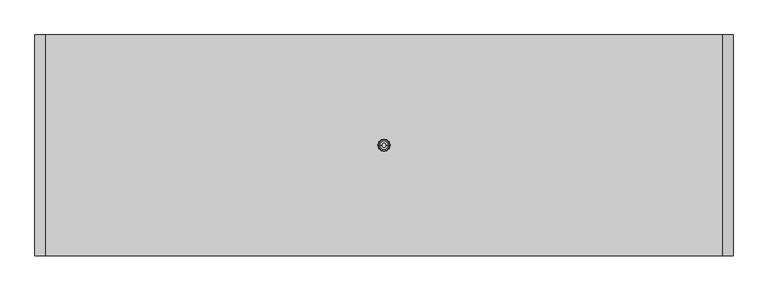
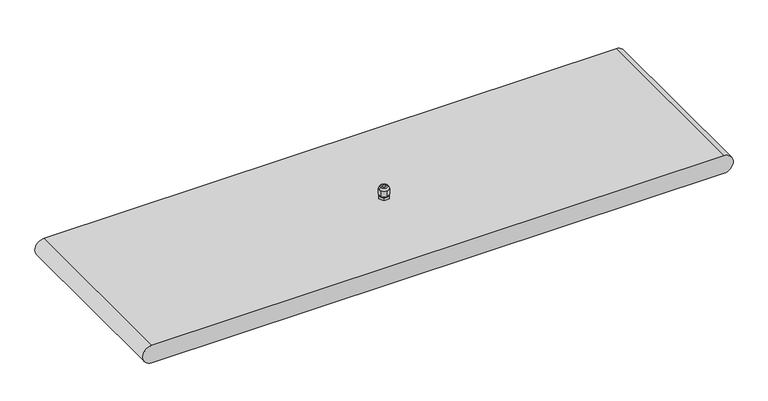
"""IFC4 building model written with IfcOpenShell, lengths in millimetres: light fixture geometry, GENILED_Светильник светодиодный_Element Низковольтный : Element 1,0x3 300Вт 12В Опал."""

from ifc_helpers import new_model, si_unit, point, frame, origin, origin_with_axes, place, context, project, spatial, polyline, circle_curve, ellipse_curve, trimmed, outline, extrude, source, transform, mapped, element, save
from ifc_brep_helpers import plane_surface, cylinder_surface, revolved_surface, advanced_brep


def light_fixture_24b21b9c(model_context):
    return source(origin(), model_context, "Body", "SolidModel", [
        advanced_brep(
        [(5.85, 0.0, 52.0120269), (-5.85, 0.0, 52.0120269), (-3.5, 0.0, 52.0120269), (3.5, 0.0, 52.0120269), (8.0, 0.0, 48.0120269), (4.0, 6.9282032, 48.0120269), (-4.0, 6.9282032, 48.0120269), (-8.0, 0.0, 48.0120269), (-4.0, -6.9282032, 48.0120269), (4.0, -6.9282032, 48.0120269), (-3.5, 0.0, 48.0120269), (3.5, 0.0, 48.0120269), (8.0, 4.1231056, 48.0120269), (7.5707142, 4.8666504, 48.0120269), (0.4292858, 8.989756, 48.0120269), (-0.4292858, 8.989756, 48.0120269), (-7.5707142, 4.8666504, 48.0120269), (-8.0, 4.1231056, 48.0120269), (-8.0, -4.1231056, 48.0120269), (-7.5707142, -4.8666504, 48.0120269), (-0.4292858, -8.989756, 48.0120269), (0.4292858, -8.989756, 48.0120269), (7.5707142, -4.8666504, 48.0120269), (8.0, -4.1231056, 48.0120269), (0.4292858, 8.989756, 38.6), (7.5707142, 4.8666504, 38.6), (8.0, 4.1231056, 38.6), (8.0, -4.1231056, 38.6), (7.5707142, -4.8666504, 38.6), (0.4292858, -8.989756, 38.6), (-0.4292858, -8.989756, 38.6), (-7.5707142, -4.8666504, 38.6), (-8.0, -4.1231056, 38.6), (-8.0, 4.1231056, 38.6), (-7.5707142, 4.8666504, 38.6), (-0.4292858, 8.989756, 38.6), (-7.25, 0.0, 38.6), (7.25, 0.0, 38.6), (-7.25, 0.0, 36.6), (7.25, 0.0, 36.6), (-8.989756, -0.4292858, 36.6), (-4.8666504, -7.5707142, 36.6), (-4.1231056, -8.0, 36.6), (4.1231056, -8.0, 36.6), (4.8666504, -7.5707142, 36.6), (8.989756, -0.4292858, 36.6), (9.0, 0.0, 36.6), (8.989756, 0.4292858, 36.6), (4.8666504, 7.5707142, 36.6), (4.1231056, 8.0, 36.6), (-4.1231056, 8.0, 36.6), (-4.8666504, 7.5707142, 36.6), (-8.989756, 0.4292858, 36.6), (-9.0, 0.0, 36.6), (-8.989756, 0.4292858, 32.0), (-4.8666504, 7.5707142, 32.0), (-4.1231056, 8.0, 32.0), (4.1231056, 8.0, 32.0), (4.8666504, 7.5707142, 32.0), (8.989756, 0.4292858, 32.0), (9.0, 0.0, 32.0), (8.989756, -0.4292858, 32.0), (4.8666504, -7.5707142, 32.0), (4.1231056, -8.0, 32.0), (-4.1231056, -8.0, 32.0), (-4.8666504, -7.5707142, 32.0), (-8.989756, -0.4292858, 32.0), (-9.0, 0.0, 32.0)],
        [
            (0, 1, circle_curve(frame((0.0, 0.0, 52.0120269), z_axis=(0.0, 0.0, 1.0), x_axis=(-1.0, 0.0, 0.0)), 5.85)),
            (1, 2),
            (2, 3, circle_curve(frame((0.0, 0.0, 52.0120269), z_axis=(0.0, 0.0, -1.0), x_axis=(-1.0, 0.0, 0.0)), 3.5)),
            (3, 0),
            (1, 0, circle_curve(frame((0.0, 0.0, 52.0120269), z_axis=(0.0, 0.0, 1.0), x_axis=(-1.0, 0.0, 0.0)), 5.85)),
            (3, 2, circle_curve(frame((0.0, 0.0, 52.0120269), z_axis=(0.0, 0.0, -1.0), x_axis=(-1.0, 0.0, 0.0)), 3.5)),
            (0, 4, circle_curve(frame((2.4876149, 0.0, 47.6269324), z_axis=(0.0, 1.0, 0.0), x_axis=(-1.0, 0.0, 0.0)), 5.5258201)),
            (4, 5, circle_curve(frame((0.0, 0.0, 48.0120269), z_axis=(0.0, 0.0, 1.0), x_axis=(-1.0, 0.0, 0.0)), 8.0)),
            (5, 6, circle_curve(frame((0.0, 0.0, 48.0120269), z_axis=(0.0, 0.0, 1.0), x_axis=(-1.0, 0.0, 0.0)), 8.0)),
            (6, 7, circle_curve(frame((0.0, 0.0, 48.0120269), z_axis=(0.0, 0.0, 1.0), x_axis=(-1.0, 0.0, 0.0)), 8.0)),
            (7, 1, circle_curve(frame((-2.4876149, 0.0, 47.6269324), z_axis=(0.0, 1.0, 0.0), x_axis=(1.0, 0.0, 0.0)), 5.5258201)),
            (7, 8, circle_curve(frame((0.0, 0.0, 48.0120269), z_axis=(0.0, 0.0, 1.0), x_axis=(-1.0, 0.0, 0.0)), 8.0)),
            (8, 9, circle_curve(frame((0.0, 0.0, 48.0120269), z_axis=(0.0, 0.0, 1.0), x_axis=(-1.0, 0.0, 0.0)), 8.0)),
            (9, 4, circle_curve(frame((0.0, 0.0, 48.0120269), z_axis=(0.0, 0.0, 1.0), x_axis=(-1.0, 0.0, 0.0)), 8.0)),
            (2, 10),
            (10, 11, circle_curve(frame((0.0, 0.0, 48.0120269), z_axis=(0.0, 0.0, -1.0), x_axis=(-1.0, 0.0, 0.0)), 3.5)),
            (11, 3),
            (11, 10, circle_curve(frame((0.0, 0.0, 48.0120269), z_axis=(0.0, 0.0, -1.0), x_axis=(-1.0, 0.0, 0.0)), 3.5)),
            (4, 12),
            (12, 13, circle_curve(frame((0.0, 0.0, 48.0120269), z_axis=(0.0, 0.0, 1.0), x_axis=(1.0, 0.0, 0.0)), 9.0)),
            (13, 5),
            (5, 14),
            (14, 15, circle_curve(frame((0.0, 0.0, 48.0120269), z_axis=(0.0, 0.0, 1.0), x_axis=(1.0, 0.0, 0.0)), 9.0)),
            (15, 6),
            (6, 16),
            (16, 17, circle_curve(frame((0.0, 0.0, 48.0120269), z_axis=(0.0, 0.0, 1.0), x_axis=(1.0, 0.0, 0.0)), 9.0)),
            (17, 7),
            (7, 18),
            (18, 19, circle_curve(frame((0.0, 0.0, 48.0120269), z_axis=(0.0, 0.0, 1.0), x_axis=(1.0, 0.0, 0.0)), 9.0)),
            (19, 8),
            (8, 20),
            (20, 21, circle_curve(frame((0.0, 0.0, 48.0120269), z_axis=(0.0, 0.0, 1.0), x_axis=(1.0, 0.0, 0.0)), 9.0)),
            (21, 9),
            (9, 22),
            (22, 23, circle_curve(frame((0.0, 0.0, 48.0120269), z_axis=(0.0, 0.0, 1.0), x_axis=(1.0, 0.0, 0.0)), 9.0)),
            (23, 4),
            (24, 25),
            (25, 26, circle_curve(frame((0.0, 0.0, 38.6), z_axis=(0.0, 0.0, -1.0), x_axis=(1.0, 0.0, 0.0)), 9.0)),
            (26, 27),
            (27, 28, circle_curve(frame((0.0, 0.0, 38.6), z_axis=(0.0, 0.0, -1.0), x_axis=(1.0, 0.0, 0.0)), 9.0)),
            (28, 29),
            (29, 30, circle_curve(frame((0.0, 0.0, 38.6), z_axis=(0.0, 0.0, -1.0), x_axis=(1.0, 0.0, 0.0)), 9.0)),
            (30, 31),
            (31, 32, circle_curve(frame((0.0, 0.0, 38.6), z_axis=(0.0, 0.0, -1.0), x_axis=(1.0, 0.0, 0.0)), 9.0)),
            (32, 33),
            (33, 34, circle_curve(frame((0.0, 0.0, 38.6), z_axis=(0.0, 0.0, -1.0), x_axis=(1.0, 0.0, 0.0)), 9.0)),
            (34, 35),
            (35, 24, circle_curve(frame((0.0, 0.0, 38.6), z_axis=(0.0, 0.0, -1.0), x_axis=(1.0, 0.0, 0.0)), 9.0)),
            (36, 37, circle_curve(frame((0.0, 0.0, 38.6), z_axis=(0.0, 0.0, 1.0), x_axis=(1.0, 0.0, 0.0)), 7.25)),
            (37, 36, circle_curve(frame((0.0, 0.0, 38.6), z_axis=(0.0, 0.0, 1.0), x_axis=(1.0, 0.0, 0.0)), 7.25)),
            (15, 35),
            (34, 16),
            (17, 33),
            (32, 18),
            (19, 31),
            (30, 20),
            (21, 29),
            (28, 22),
            (23, 27),
            (26, 12),
            (13, 25),
            (24, 14),
            (36, 38),
            (38, 39, circle_curve(frame((0.0, 0.0, 36.6), z_axis=(0.0, 0.0, 1.0), x_axis=(1.0, 0.0, 0.0)), 7.25)),
            (39, 37),
            (39, 38, circle_curve(frame((0.0, 0.0, 36.6), z_axis=(0.0, 0.0, 1.0), x_axis=(1.0, 0.0, 0.0)), 7.25)),
            (40, 41),
            (41, 42, circle_curve(frame((0.0, 0.0, 36.6), z_axis=(0.0, 0.0, 1.0), x_axis=(1.0, 0.0, 0.0)), 9.0)),
            (42, 43),
            (43, 44, circle_curve(frame((0.0, 0.0, 36.6), z_axis=(0.0, 0.0, 1.0), x_axis=(1.0, 0.0, 0.0)), 9.0)),
            (44, 45),
            (45, 46, circle_curve(frame((0.0, 0.0, 36.6), z_axis=(0.0, 0.0, 1.0), x_axis=(1.0, 0.0, 0.0)), 9.0)),
            (46, 47, circle_curve(frame((0.0, 0.0, 36.6), z_axis=(0.0, 0.0, 1.0), x_axis=(1.0, 0.0, 0.0)), 9.0)),
            (47, 48),
            (48, 49, circle_curve(frame((0.0, 0.0, 36.6), z_axis=(0.0, 0.0, 1.0), x_axis=(1.0, 0.0, 0.0)), 9.0)),
            (49, 50),
            (50, 51, circle_curve(frame((0.0, 0.0, 36.6), z_axis=(0.0, 0.0, 1.0), x_axis=(1.0, 0.0, 0.0)), 9.0)),
            (51, 52),
            (52, 53, circle_curve(frame((0.0, 0.0, 36.6), z_axis=(0.0, 0.0, 1.0), x_axis=(1.0, 0.0, 0.0)), 9.0)),
            (53, 40, circle_curve(frame((0.0, 0.0, 36.6), z_axis=(0.0, 0.0, 1.0), x_axis=(1.0, 0.0, 0.0)), 9.0)),
            (54, 55),
            (55, 56, circle_curve(frame((0.0, 0.0, 32.0), z_axis=(0.0, 0.0, -1.0), x_axis=(1.0, 0.0, 0.0)), 9.0)),
            (56, 57),
            (57, 58, circle_curve(frame((0.0, 0.0, 32.0), z_axis=(0.0, 0.0, -1.0), x_axis=(1.0, 0.0, 0.0)), 9.0)),
            (58, 59),
            (59, 60, circle_curve(frame((0.0, 0.0, 32.0), z_axis=(0.0, 0.0, -1.0), x_axis=(1.0, 0.0, 0.0)), 9.0)),
            (60, 61, circle_curve(frame((0.0, 0.0, 32.0), z_axis=(0.0, 0.0, -1.0), x_axis=(1.0, 0.0, 0.0)), 9.0)),
            (61, 62),
            (62, 63, circle_curve(frame((0.0, 0.0, 32.0), z_axis=(0.0, 0.0, -1.0), x_axis=(1.0, 0.0, 0.0)), 9.0)),
            (63, 64),
            (64, 65, circle_curve(frame((0.0, 0.0, 32.0), z_axis=(0.0, 0.0, -1.0), x_axis=(1.0, 0.0, 0.0)), 9.0)),
            (65, 66),
            (66, 67, circle_curve(frame((0.0, 0.0, 32.0), z_axis=(0.0, 0.0, -1.0), x_axis=(1.0, 0.0, 0.0)), 9.0)),
            (67, 54, circle_curve(frame((0.0, 0.0, 32.0), z_axis=(0.0, 0.0, -1.0), x_axis=(1.0, 0.0, 0.0)), 9.0)),
            (40, 66),
            (65, 41),
            (42, 64),
            (63, 43),
            (44, 62),
            (61, 45),
            (47, 59),
            (58, 48),
            (49, 57),
            (56, 50),
            (51, 55),
            (54, 52),
            (67, 53),
            (46, 60),
        ],
        [
            plane_surface(frame((0.0, 0.0, 52.0120269), z_axis=(0.0, 0.0, 1.0), x_axis=(-1.0, 0.0, 0.0))),
            revolved_surface(trimmed(ellipse_curve(frame((-2.4876149, 0.0, 47.6269324), z_axis=(0.0, -1.0, 0.0), x_axis=(1.0, 0.0, 0.0)), 5.5258201, 5.5258201), [point((-5.85, 0.0, 52.0120269))], [point((-8.0, 0.0, 48.0120269))], True, "CARTESIAN"), (0.0, 0.0, 48.0120269), (0.0, 0.0, -1.0)),
            revolved_surface(polyline([(-3.5, 0.0, 48.0120269), (-3.5, 0.0, 52.0120269)]), (0.0, 0.0, 48.0120269), (0.0, 0.0, -1.0)),
            plane_surface(frame((0.0, 9.2376043, 48.0120269), z_axis=(0.0, 0.0, 1.0000000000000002), x_axis=(-0.8660254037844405, -0.49999999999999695, 0.0))),
            plane_surface(frame((0.0, 9.2376043, 38.6), z_axis=(0.0, 0.0, -1.0000000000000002), x_axis=(0.8660254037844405, 0.49999999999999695, 0.0))),
            plane_surface(frame((0.0, 9.2376043, 48.0120269), z_axis=(-0.49999999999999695, 0.8660254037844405, 0.0), x_axis=(0.0, 0.0, -1.0))),
            plane_surface(frame((-8.0, 4.6188022, 48.0120269), z_axis=(-1.0, 0.0, 0.0), x_axis=(0.0, 0.0, -1.0))),
            plane_surface(frame((-8.0, -4.6188022, 48.0120269), z_axis=(-0.5000000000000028, -0.8660254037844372, 0.0), x_axis=(0.0, 0.0, -1.0))),
            plane_surface(frame((0.0, -9.2376043, 48.0120269), z_axis=(0.49999999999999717, -0.8660254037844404, 0.0), x_axis=(0.0, 0.0, -1.0))),
            plane_surface(frame((8.0, -4.6188022, 48.0120269), z_axis=(1.0, 0.0, 0.0), x_axis=(0.0, 0.0, -1.0))),
            plane_surface(frame((8.0, 4.6188022, 48.0120269), z_axis=(0.5000000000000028, 0.8660254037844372, 0.0), x_axis=(0.0, 0.0, -1.0))),
            cylinder_surface(frame((0.0, 0.0, 36.6), z_axis=(0.0, 0.0, 1.0), x_axis=(1.0, 0.0, 0.0)), 7.25),
            plane_surface(frame((-9.2376043, 0.0, 36.6), z_axis=(0.0, 0.0, 1.0), x_axis=(0.5000000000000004, -0.8660254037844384, 0.0))),
            plane_surface(frame((-9.2376043, 0.0, 32.0), z_axis=(0.0, 0.0, -1.0), x_axis=(-0.5000000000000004, 0.8660254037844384, 0.0))),
            plane_surface(frame((-9.2376043, 0.0, 36.6), z_axis=(-0.8660254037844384, -0.5000000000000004, 0.0), x_axis=(0.0, 0.0, -1.0))),
            plane_surface(frame((-4.6188022, -8.0, 36.6), z_axis=(0.0, -1.0, 0.0), x_axis=(0.0, 0.0, -1.0))),
            plane_surface(frame((4.6188022, -8.0, 36.6), z_axis=(0.866025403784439, -0.49999999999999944, 0.0), x_axis=(0.0, 0.0, -1.0))),
            plane_surface(frame((9.2376043, 0.0, 36.6), z_axis=(0.8660254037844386, 0.5000000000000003, 0.0), x_axis=(0.0, 0.0, -1.0))),
            plane_surface(frame((4.6188022, 8.0, 36.6), z_axis=(0.0, 1.0, 0.0), x_axis=(0.0, 0.0, -1.0))),
            plane_surface(frame((-4.6188022, 8.0, 36.6), z_axis=(-0.8660254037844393, 0.49999999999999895, 0.0), x_axis=(0.0, 0.0, -1.0))),
            cylinder_surface(frame((0.0, 0.0, 32.0), z_axis=(0.0, 0.0, -1.0), x_axis=(1.0, 0.0, 0.0)), 9.0),
        ],
        [
            (0, [[1, 2, 3, 4]]),
            (0, [[-2, 5, -4, 6]]),
            (1, [[-1, 7, 8, 9, 10, 11]]),
            (1, [[-5, -11, 12, 13, 14, -7]]),
            (2, [[-3, 15, 16, 17]]),
            (2, [[-6, -17, 18, -15]]),
            (3, [[-8, 19, 20, 21]]),
            (3, [[-9, 22, 23, 24]]),
            (3, [[-10, 25, 26, 27]]),
            (3, [[-12, 28, 29, 30]]),
            (3, [[-13, 31, 32, 33]]),
            (3, [[-14, 34, 35, 36]]),
            (3, [[-16, -18]]),
            (4, [[37, 38, 39, 40, 41, 42, 43, 44, 45, 46, 47, 48], [49, 50]]),
            (5, [[-25, -24, 51, -47, 52]]),
            (6, [[-27, 53, -45, 54, -28]]),
            (7, [[-30, 55, -43, 56, -31]]),
            (8, [[-34, -33, 57, -41, 58]]),
            (9, [[-36, 59, -39, 60, -19]]),
            (10, [[-21, 61, -37, 62, -22]]),
            (11, [[63, 64, 65, -49]]),
            (11, [[-63, -50, -65, 66]]),
            (12, [[67, 68, 69, 70, 71, 72, 73, 74, 75, 76, 77, 78, 79, 80], [-64, -66]]),
            (13, [[81, 82, 83, 84, 85, 86, 87, 88, 89, 90, 91, 92, 93, 94]]),
            (14, [[-67, 95, -92, 96]]),
            (15, [[-69, 97, -90, 98]]),
            (16, [[-71, 99, -88, 100]]),
            (17, [[-74, 101, -85, 102]]),
            (18, [[-76, 103, -83, 104]]),
            (19, [[-78, 105, -81, 106]]),
            (20, [[-20, -60, -38, -61]]),
            (20, [[-23, -62, -48, -51]]),
            (20, [[-26, -52, -46, -53]]),
            (20, [[-75, -102, -84, -103]]),
            (20, [[-77, -104, -82, -105]]),
            (20, [[107, -79, -106, -94]]),
            (20, [[108, -86, -101, -73]]),
            (20, [[-29, -54, -44, -55]]),
            (20, [[-32, -56, -42, -57]]),
            (20, [[-35, -58, -40, -59]]),
            (20, [[-68, -96, -91, -97]]),
            (20, [[-70, -98, -89, -99]]),
            (20, [[-107, -93, -95, -80]]),
            (20, [[-108, -72, -100, -87]]),
        ],
    ),
        advanced_brep(
        [(496.5, -162.0, 32.0), (-496.5, -162.0, 32.0), (-496.5, -162.0, 0.0), (496.5, -162.0, 0.0), (496.5, 162.0, 32.0), (496.5, 162.0, 0.0), (-496.5, 162.0, 0.0), (-496.5, 162.0, 32.0), (-496.5, 152.0, 0.0), (-496.5, -152.0, 0.0), (496.5, -152.0, 0.0), (496.5, 152.0, 0.0), (496.5, 152.0, 2.0), (496.5, -152.0, 2.0), (-496.5, -152.0, 2.0), (-496.5, 152.0, 2.0)],
        [
            (0, 1),
            (1, 2, circle_curve(frame((-496.5, -162.0, 16.0), z_axis=(0.0, -1.0, 0.0), x_axis=(1.0, 0.0, 0.0)), 16.0)),
            (2, 3),
            (3, 0, circle_curve(frame((496.5, -162.0, 16.0), z_axis=(0.0, -1.0, 0.0), x_axis=(1.0, 0.0, 0.0)), 16.0)),
            (4, 5, circle_curve(frame((496.5, 162.0, 16.0), z_axis=(0.0, 1.0, 0.0), x_axis=(1.0, 0.0, 0.0)), 16.0)),
            (5, 6),
            (6, 7, circle_curve(frame((-496.5, 162.0, 16.0), z_axis=(0.0, 1.0, 0.0), x_axis=(1.0, 0.0, 0.0)), 16.0)),
            (7, 4),
            (0, 4),
            (7, 1),
            (6, 8),
            (8, 9),
            (9, 2),
            (9, 10),
            (10, 3),
            (5, 11),
            (11, 8),
            (10, 11),
            (12, 13),
            (13, 14),
            (14, 15),
            (15, 12),
            (15, 8),
            (11, 12),
            (14, 9),
            (13, 10),
        ],
        [
            plane_surface(frame((-496.5, -162.0, 32.0), z_axis=(0.0, -1.0, 0.0), x_axis=(-1.0, 0.0, 0.0))),
            plane_surface(frame((-496.5, 162.0, 32.0), z_axis=(0.0, 1.0, 0.0), x_axis=(1.0, 0.0, 0.0))),
            plane_surface(frame((496.5, -162.0, 32.0), z_axis=(0.0, 0.0, 1.0), x_axis=(0.0, 1.0, 0.0))),
            cylinder_surface(frame((-496.5, 162.0, 16.0), z_axis=(0.0, -1.0, 0.0), x_axis=(1.0, 0.0, 0.0)), 16.0),
            plane_surface(frame((-496.5, -162.0, 0.0), z_axis=(0.0, 0.0, -1.0), x_axis=(0.0, 1.0, 0.0))),
            cylinder_surface(frame((496.5, 162.0, 16.0), z_axis=(0.0, -1.0, 0.0), x_axis=(1.0, 0.0, 0.0)), 16.0),
            plane_surface(frame((-496.5, 152.0, 2.0), z_axis=(0.0, 0.0, -1.0), x_axis=(-1.0, 0.0, 0.0))),
            plane_surface(frame((496.5, 152.0, 2.0), z_axis=(0.0, -1.0, 0.0), x_axis=(0.0, 0.0, -1.0))),
            plane_surface(frame((-496.5, 152.0, 2.0), z_axis=(1.0, 0.0, 0.0), x_axis=(0.0, 0.0, -1.0))),
            plane_surface(frame((-496.5, -152.0, 2.0), z_axis=(0.0, 1.0, 0.0), x_axis=(0.0, 0.0, -1.0))),
            plane_surface(frame((496.5, -152.0, 2.0), z_axis=(-1.0, 0.0, 0.0), x_axis=(0.0, 0.0, -1.0))),
        ],
        [
            (0, [[1, 2, 3, 4]]),
            (1, [[5, 6, 7, 8]]),
            (2, [[-1, 9, -8, 10]]),
            (3, [[-2, -10, -7, 11, 12, 13]]),
            (4, [[-3, -13, 14, 15]]),
            (4, [[-6, 16, 17, -11]]),
            (5, [[-4, -15, 18, -16, -5, -9]]),
            (6, [[19, 20, 21, 22]]),
            (7, [[-22, 23, -17, 24]]),
            (8, [[-21, 25, -12, -23]]),
            (9, [[-20, 26, -14, -25]]),
            (10, [[-19, -24, -18, -26]]),
        ],
    ),
        extrude(outline(polyline([(496.5, 152.0), (496.5, -152.0), (-496.5, -152.0), (-496.5, 152.0), (496.5, 152.0)])), origin_with_axes(), (0.0, 0.0, 1.0), 2.0),
    ])


if __name__ == "__main__":
    model = new_model("IFC4")
    model_context = context("Model", 3, world=origin())
    ifc_project = project(units=[si_unit("LENGTHUNIT", "METRE", prefix="MILLI")], contexts=[model_context])
    site = spatial("IfcSite", under=ifc_project)
    building = spatial("IfcBuilding", under=site)
    placement = place(None, origin())
    light_fixture_shape = light_fixture_24b21b9c(model_context)
    element("IfcLightFixture", 1, ObjectType="GENILED_Светильник светодиодный_Element Низковольтный : Element 1,0x3 300Вт 12В Опал", at=placement, inside=building, context=model_context, shape_type="MappedRepresentation", body=[
        mapped(light_fixture_shape, transform((0.0, 0.0, 0.0), x_axis=(1.0, 0.0, 0.0), y_axis=(0.0, 1.0, 0.0), z_axis=(0.0, 0.0, 1.0))),
    ])
    save(model, "model.ifc")
